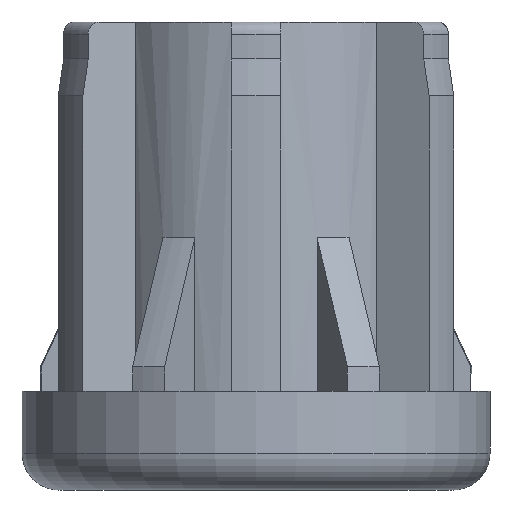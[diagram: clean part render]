
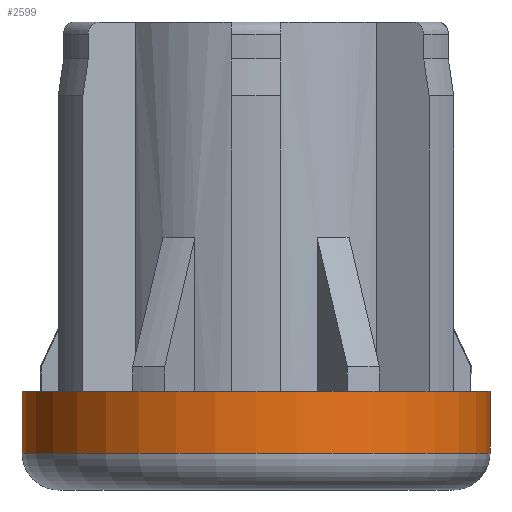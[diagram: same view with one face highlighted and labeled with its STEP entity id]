
A CAD part, front view. The second image highlights one B-rep face of the part: STEP entity #2599.
In plain terms, the highlighted cylindrical face has radius 19 mm (diameter 38 mm), a partial arc.
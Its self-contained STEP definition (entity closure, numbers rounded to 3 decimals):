
#163 = EDGE_LOOP ( 'NONE', ( #227, #1932, #2586, #1686 ) ) ;
#171 = DIRECTION ( 'NONE',  ( 0., 0., 1. ) ) ;
#227 = ORIENTED_EDGE ( 'NONE', *, *, #464, .F. ) ;
#229 = EDGE_CURVE ( 'NONE', #2184, #2361, #1796, .T. ) ;
#256 = CARTESIAN_POINT ( 'NONE',  ( 304.209, 684.667, 0. ) ) ;
#274 = LINE ( 'NONE', #1625, #2852 ) ;
#360 = DIRECTION ( 'NONE',  ( 1., 0., 0. ) ) ;
#464 = EDGE_CURVE ( 'NONE', #2522, #2184, #274, .T. ) ;
#536 = DIRECTION ( 'NONE',  ( 0., 0., 1. ) ) ;
#680 = DIRECTION ( 'NONE',  ( 1., 0., 0. ) ) ;
#701 = CARTESIAN_POINT ( 'NONE',  ( 285.209, 684.667, 0. ) ) ;
#733 = AXIS2_PLACEMENT_3D ( 'NONE', #701, #171, #680 ) ;
#757 = CIRCLE ( 'NONE', #920, 19. ) ;
#799 = DIRECTION ( 'NONE',  ( 1., 0., 0. ) ) ;
#920 = AXIS2_PLACEMENT_3D ( 'NONE', #1545, #536, #799 ) ;
#1135 = EDGE_CURVE ( 'NONE', #2101, #2361, #2489, .T. ) ;
#1191 = CARTESIAN_POINT ( 'NONE',  ( 304.209, 684.667, -8. ) ) ;
#1545 = CARTESIAN_POINT ( 'NONE',  ( 285.209, 684.667, -5. ) ) ;
#1558 = CARTESIAN_POINT ( 'NONE',  ( 304.209, 684.667, -5. ) ) ;
#1591 = CARTESIAN_POINT ( 'NONE',  ( 266.209, 684.667, 0. ) ) ;
#1596 = DIRECTION ( 'NONE',  ( 0., 0., 1. ) ) ;
#1625 = CARTESIAN_POINT ( 'NONE',  ( 266.209, 684.667, -8. ) ) ;
#1659 = VECTOR ( 'NONE', #2641, 1000. ) ;
#1686 = ORIENTED_EDGE ( 'NONE', *, *, #229, .F. ) ;
#1796 = CIRCLE ( 'NONE', #733, 19. ) ;
#1874 = DIRECTION ( 'NONE',  ( 0., 0., 1. ) ) ;
#1932 = ORIENTED_EDGE ( 'NONE', *, *, #1983, .T. ) ;
#1983 = EDGE_CURVE ( 'NONE', #2522, #2101, #757, .T. ) ;
#2101 = VERTEX_POINT ( 'NONE', #1558 ) ;
#2165 = AXIS2_PLACEMENT_3D ( 'NONE', #3103, #1596, #360 ) ;
#2184 = VERTEX_POINT ( 'NONE', #1591 ) ;
#2309 = CARTESIAN_POINT ( 'NONE',  ( 266.209, 684.667, -5. ) ) ;
#2361 = VERTEX_POINT ( 'NONE', #256 ) ;
#2489 = LINE ( 'NONE', #1191, #1659 ) ;
#2522 = VERTEX_POINT ( 'NONE', #2309 ) ;
#2567 = FACE_OUTER_BOUND ( 'NONE', #163, .T. ) ;
#2586 = ORIENTED_EDGE ( 'NONE', *, *, #1135, .T. ) ;
#2599 = ADVANCED_FACE ( 'NONE', ( #2567 ), #2608, .T. ) ;
#2608 = CYLINDRICAL_SURFACE ( 'NONE', #2165, 19. ) ;
#2641 = DIRECTION ( 'NONE',  ( 0., 0., 1. ) ) ;
#2852 = VECTOR ( 'NONE', #1874, 1000. ) ;
#3103 = CARTESIAN_POINT ( 'NONE',  ( 285.209, 684.667, -8. ) ) ;
